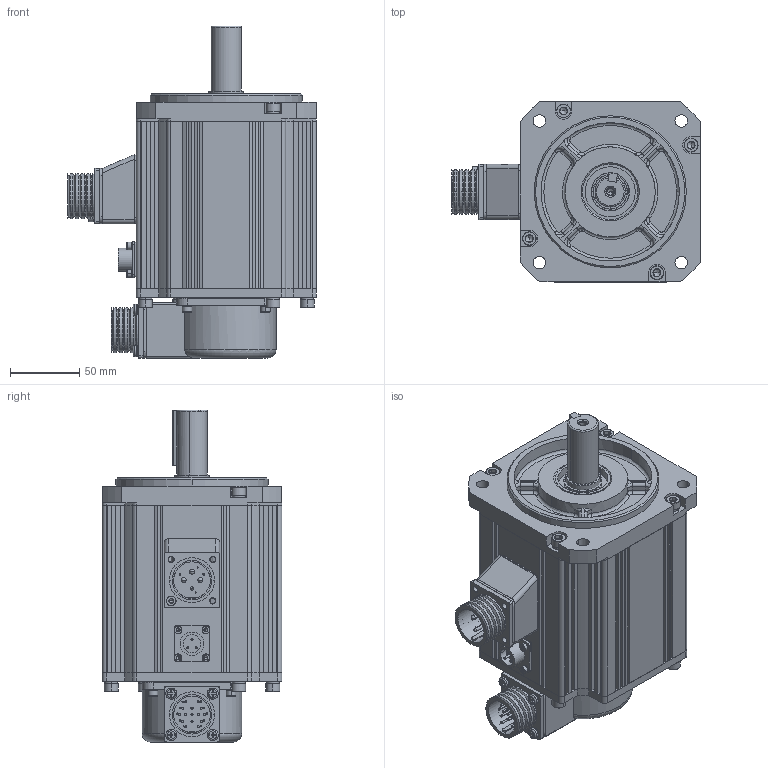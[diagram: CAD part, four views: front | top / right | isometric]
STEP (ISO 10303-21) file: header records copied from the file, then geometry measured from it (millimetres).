
FILE_DESCRIPTION((''),'2;1');
FILE_NAME('SV-MM13-1R0E-X-XA4-1000_ASM_ASM','2019-12-11T',('JWDQ'),(''),'CREO PARAMETRIC BY PTC INC, 2014050','CREO PARAMETRIC BY PTC INC, 2014050','');
FILE_SCHEMA(('CONFIG_CONTROL_DESIGN'));
Products named in the file (35): SV130BZ-ZHOU_1_1_2_3_4_AF0; SV130BZ-ZZ-1_ASM_1_1_2_3_4_AF0_ASM; SV130BZ-ZZ-2_ASM_1_1_2_3_4_AF0_ASM; 80100020-1_1_1_2_3_4; SV130BZ-HG_ASM_1_1_2_3_4_ASM; SV130BZ-ZHUANZ_ASM_1_1_2_3__AF0_ASM; SV130BZ-K_1_1_2_3_4; 513704090100_1_1_2_3_4_5_6_7_11; 046770000100_1_1_2_3_4_5_6_7_10; 80750004_1_1_2_3_4_5_6_7_8_9_11; 78400020_1_1_2_3_4_5_6_7_8_9_11; GBT93-4_1_1_2_3_4_5_6_7_8; GBT7R1-4X35_1_1_2_3_4_5_6_7_8_9; S-YD28-4_ASM_1_1_2_3_4_5_6_7__9_ASM; SV130BZ-DZ-1_ASM_1_1_2_3_4_ASM; SV130BZ-DINGZ_ASM_1_1_2_3_4_ASM; 80100007_1_1_2_3_4_5_6_7_8_9_11; 730030000200_1_1_2_3_4_5_6_7_11; SV130-QG_ASM_1_1_2_3_4_5_6_7__9_ASM; 82340004_1_1_2_3_4_5_6_7_8_9_11; 046770000100_1; 513715090100_1_1_2_3_4_5_6_7_11; 78400019_1_1_2_3_4_5_6_7_8_9_11; GBT93-4_1; GBT70R1-4X12_1_1_2_3_4_5_6_7__9; M4X16_1_1_2_3_4_5_6_7_8_9_10_11; TS5214_ASM_1_1_2_3_4_5_6_7_8_ASM; GBT93-6_1_1_2_3_4_5_6_7_8_9; GBT7R1-M6X16_1_1_2_3_4_5_6_7__9; GBT1095-6X6-41_1_1_2_3; XS16-3P_1_1_2_3_4; GB93-3_1_1_2_3_4_5; GBT7R1-3X8_1_1_2_3_4_5; SV130-BZ_ASM_2_1_2_3_AF0_ASM; SV-MM13-1R0E-X-XA4-1000_ASM_ASM
Assembly tree (67 placements, depth 6):
  SV-MM13-1R0E-X-XA4-1000_ASM_ASM
    SV130-BZ_ASM_2_1_2_3_AF0_ASM
      SV130BZ-ZHUANZ_ASM_1_1_2_3__AF0_ASM
        SV130BZ-ZZ-2_ASM_1_1_2_3_4_AF0_ASM
          SV130BZ-ZZ-1_ASM_1_1_2_3_4_AF0_ASM
            SV130BZ-ZHOU_1_1_2_3_4_AF0
        SV130BZ-HG_ASM_1_1_2_3_4_ASM
          80100020-1_1_1_2_3_4
      SV130BZ-DINGZ_ASM_1_1_2_3_4_ASM
        SV130BZ-DZ-1_ASM_1_1_2_3_4_ASM
          SV130BZ-K_1_1_2_3_4
          S-YD28-4_ASM_1_1_2_3_4_5_6_7__9_ASM
            513704090100_1_1_2_3_4_5_6_7_11
            046770000100_1_1_2_3_4_5_6_7_10
            80750004_1_1_2_3_4_5_6_7_8_9_11
            78400020_1_1_2_3_4_5_6_7_8_9_11
            GBT93-4_1_1_2_3_4_5_6_7_8
            GBT7R1-4X35_1_1_2_3_4_5_6_7_8_9
      SV130-QG_ASM_1_1_2_3_4_5_6_7__9_ASM
        80100007_1_1_2_3_4_5_6_7_8_9_11
        730030000200_1_1_2_3_4_5_6_7_11
      TS5214_ASM_1_1_2_3_4_5_6_7_8_ASM
        82340004_1_1_2_3_4_5_6_7_8_9_11
        046770000100_1
        513715090100_1_1_2_3_4_5_6_7_11
        78400019_1_1_2_3_4_5_6_7_8_9_11
        GBT93-4_1  x8
        GBT70R1-4X12_1_1_2_3_4_5_6_7__9  x4
        M4X16_1_1_2_3_4_5_6_7_8_9_10_11  x4
      GBT93-6_1_1_2_3_4_5_6_7_8_9  x8
      GBT7R1-M6X16_1_1_2_3_4_5_6_7__9  x8
      GBT1095-6X6-41_1_1_2_3
      XS16-3P_1_1_2_3_4
      GB93-3_1_1_2_3_4_5  x4
      GBT7R1-3X8_1_1_2_3_4_5  x4
Bounding box: 179.5 x 130 x 240 mm (x, y, z)
Volume: 907866.5 mm3; surface area: 372749.8 mm2
Topology: 57 solids, 75 shells, 3304 faces, 8611 edges, 5583 vertices
Faces by surface type: plane 1925, cylinder 828, cone 394, torus 100, bspline 31, sphere 26
Entity records: 104576 total; most frequent: CARTESIAN_POINT 17092, DIRECTION 14686, ORIENTED_EDGE 14306, EDGE_CURVE 7163, AXIS2_PLACEMENT_3D 4923, VECTOR 4840, LINE 4840, VERTEX_POINT 4747
